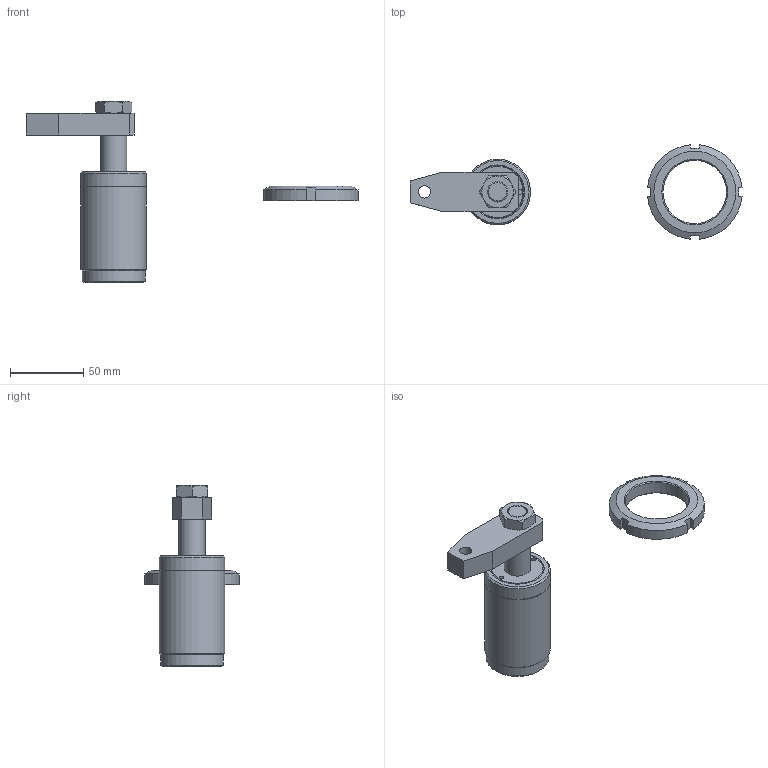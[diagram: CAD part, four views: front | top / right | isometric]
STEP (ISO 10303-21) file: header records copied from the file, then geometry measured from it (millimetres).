
FILE_DESCRIPTION(/* description */ ('Unknown'),/* implementation_level */ '2;1');
FILE_NAME(/* name */ 'HSC-TB25S-A',/* time_stamp */ '2022-08-26T04:14:35+08:00',/* author */ ('Unknown'),/* organization */ ('Unknown'),/* preprocessor_version */ 'ST-DEVELOPER v16.7',/* originating_system */ 'DEX',/* authorisation */ $);
FILE_SCHEMA (('AUTOMOTIVE_DESIGN {1 0 10303 214 3 1 1}'));
Length unit declared in the file: millimetre
Products named in the file (5): HSC-TB25S-A; HSC-2502-S-AXLE CENTRE; HSC-25S-A; HSC-TB25-Nut; HSC-TB25S-CYLINDER
Assembly tree (4 placements, depth 2):
  HSC-TB25S-A
    HSC-2502-S-AXLE CENTRE
    HSC-25S-A
    HSC-TB25-Nut
    HSC-TB25S-CYLINDER
Bounding box: 227.36 x 64.72 x 124 mm (x, y, z)
Volume: 160313.4 mm3; surface area: 39280.9 mm2
Topology: 4 solids, 4 shells, 96 faces, 204 edges, 128 vertices
Faces by surface type: plane 46, cone 27, cylinder 20, torus 3
Full cylindrical faces by diameter (mm): 3.2 x2, 8.5 x1, 9.147 x2, 14 x2, 15 x1, 18 x1, 18.001 x1, 24.601 x1, 25 x1, 43 x1, 43.5 x1, 45 x2
Entity records: 3166 total; most frequent: CARTESIAN_POINT 499, DIRECTION 400, ORIENTED_EDGE 328, AXIS2_PLACEMENT_3D 171, EDGE_CURVE 164, EDGE_LOOP 148, FACE_BOUND 148, VERTEX_POINT 122
